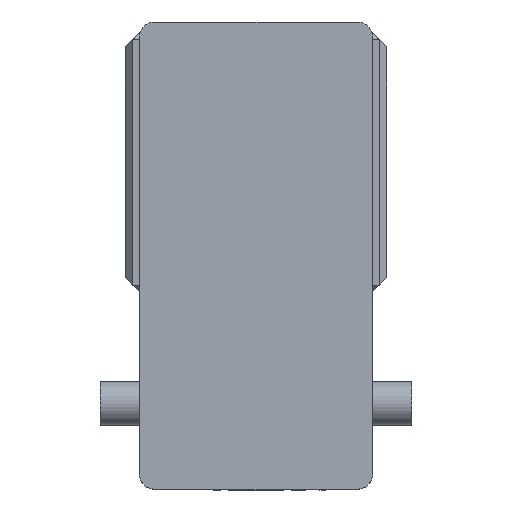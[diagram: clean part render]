
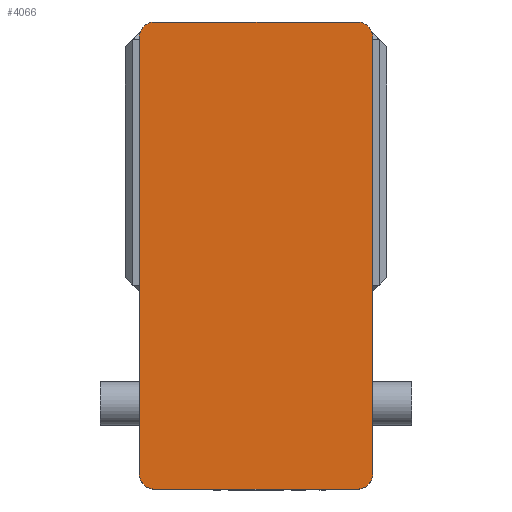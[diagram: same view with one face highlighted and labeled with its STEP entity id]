
A CAD part, left-side view. The second image highlights one B-rep face of the part: STEP entity #4066.
In plain terms, the highlighted planar face has unit normal (-1, 0, 0) as drawn and (0, 0, 1) by its records, which use the part's own axes.
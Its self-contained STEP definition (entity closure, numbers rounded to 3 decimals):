
#180 = DIRECTION ( 'NONE',  ( 1., 0., 0. ) ) ;
#249 = CARTESIAN_POINT ( 'NONE',  ( -75., -150., 105. ) ) ;
#1401 = DIRECTION ( 'NONE',  ( 0., -1., 0. ) ) ;
#1409 = CARTESIAN_POINT ( 'NONE',  ( -75., 140., 105. ) ) ;
#1428 = CARTESIAN_POINT ( 'NONE',  ( -75., 150., 105. ) ) ;
#1633 = VERTEX_POINT ( 'NONE', #13821 ) ;
#3212 = CARTESIAN_POINT ( 'NONE',  ( 75., 140., 105. ) ) ;
#4066 = ADVANCED_FACE ( 'NONE', ( #16025 ), #6736, .T. ) ;
#4200 = CARTESIAN_POINT ( 'NONE',  ( -75., 150., 105. ) ) ;
#4362 = DIRECTION ( 'NONE',  ( -1., 0., 0. ) ) ;
#5055 = AXIS2_PLACEMENT_3D ( 'NONE', #6712, #6690, #6684 ) ;
#5760 = DIRECTION ( 'NONE',  ( 0., 1., 0. ) ) ;
#5806 = CARTESIAN_POINT ( 'NONE',  ( 75., 150., 105. ) ) ;
#6684 = DIRECTION ( 'NONE',  ( 1., 0., 0. ) ) ;
#6690 = DIRECTION ( 'NONE',  ( 0., 0., 1. ) ) ;
#6712 = CARTESIAN_POINT ( 'NONE',  ( 0., 0., 105. ) ) ;
#6736 = PLANE ( 'NONE',  #5055 ) ;
#6793 = VERTEX_POINT ( 'NONE', #19548 ) ;
#7360 = VERTEX_POINT ( 'NONE', #15580 ) ;
#8289 = CIRCLE ( 'NONE', #16159, 10. ) ;
#8443 = CIRCLE ( 'NONE', #16566, 10. ) ;
#8538 = CIRCLE ( 'NONE', #17009, 10. ) ;
#8602 = CIRCLE ( 'NONE', #17608, 10. ) ;
#8690 = VECTOR ( 'NONE', #180, 1000. ) ;
#8702 = LINE ( 'NONE', #249, #8690 ) ;
#9203 = LINE ( 'NONE', #1428, #9395 ) ;
#9395 = VECTOR ( 'NONE', #1401, 1000. ) ;
#10035 = LINE ( 'NONE', #4200, #10074 ) ;
#10074 = VECTOR ( 'NONE', #4362, 1000. ) ;
#10358 = VECTOR ( 'NONE', #5760, 1000. ) ;
#10387 = LINE ( 'NONE', #5806, #10358 ) ;
#10490 = VERTEX_POINT ( 'NONE', #18599 ) ;
#10706 = VERTEX_POINT ( 'NONE', #3212 ) ;
#11428 = ORIENTED_EDGE ( 'NONE', *, *, #16787, .T. ) ;
#12501 = EDGE_LOOP ( 'NONE', ( #16957, #13127, #11428, #18270, #15216, #17482, #17736, #17947 ) ) ;
#12561 = VERTEX_POINT ( 'NONE', #1409 ) ;
#12700 = VERTEX_POINT ( 'NONE', #18946 ) ;
#13127 = ORIENTED_EDGE ( 'NONE', *, *, #17293, .T. ) ;
#13821 = CARTESIAN_POINT ( 'NONE',  ( 75., -140., 105. ) ) ;
#15216 = ORIENTED_EDGE ( 'NONE', *, *, #16906, .T. ) ;
#15580 = CARTESIAN_POINT ( 'NONE',  ( -75., -140., 105. ) ) ;
#16025 = FACE_OUTER_BOUND ( 'NONE', #12501, .T. ) ;
#16159 = AXIS2_PLACEMENT_3D ( 'NONE', #16442, #16418, #16367 ) ;
#16367 = DIRECTION ( 'NONE',  ( 1., 0., 0. ) ) ;
#16418 = DIRECTION ( 'NONE',  ( 0., 0., 1. ) ) ;
#16442 = CARTESIAN_POINT ( 'NONE',  ( -65., -140., 105. ) ) ;
#16566 = AXIS2_PLACEMENT_3D ( 'NONE', #18040, #18018, #17977 ) ;
#16787 = EDGE_CURVE ( 'NONE', #1633, #10706, #10387, .T. ) ;
#16906 = EDGE_CURVE ( 'NONE', #6793, #12700, #10035, .T. ) ;
#16957 = ORIENTED_EDGE ( 'NONE', *, *, #17240, .T. ) ;
#17009 = AXIS2_PLACEMENT_3D ( 'NONE', #18635, #18578, #18520 ) ;
#17110 = EDGE_CURVE ( 'NONE', #12561, #7360, #9203, .T. ) ;
#17240 = EDGE_CURVE ( 'NONE', #17335, #10490, #8702, .T. ) ;
#17293 = EDGE_CURVE ( 'NONE', #10490, #1633, #8602, .T. ) ;
#17323 = EDGE_CURVE ( 'NONE', #10706, #6793, #8538, .T. ) ;
#17326 = EDGE_CURVE ( 'NONE', #12700, #12561, #8443, .T. ) ;
#17335 = VERTEX_POINT ( 'NONE', #18762 ) ;
#17383 = EDGE_CURVE ( 'NONE', #7360, #17335, #8289, .T. ) ;
#17482 = ORIENTED_EDGE ( 'NONE', *, *, #17326, .T. ) ;
#17608 = AXIS2_PLACEMENT_3D ( 'NONE', #19481, #19443, #19427 ) ;
#17736 = ORIENTED_EDGE ( 'NONE', *, *, #17110, .T. ) ;
#17947 = ORIENTED_EDGE ( 'NONE', *, *, #17383, .T. ) ;
#17977 = DIRECTION ( 'NONE',  ( 1., 0., 0. ) ) ;
#18018 = DIRECTION ( 'NONE',  ( 0., 0., 1. ) ) ;
#18040 = CARTESIAN_POINT ( 'NONE',  ( -65., 140., 105. ) ) ;
#18270 = ORIENTED_EDGE ( 'NONE', *, *, #17323, .T. ) ;
#18520 = DIRECTION ( 'NONE',  ( 1., 0., 0. ) ) ;
#18578 = DIRECTION ( 'NONE',  ( 0., 0., 1. ) ) ;
#18599 = CARTESIAN_POINT ( 'NONE',  ( 65., -150., 105. ) ) ;
#18635 = CARTESIAN_POINT ( 'NONE',  ( 65., 140., 105. ) ) ;
#18762 = CARTESIAN_POINT ( 'NONE',  ( -65., -150., 105. ) ) ;
#18946 = CARTESIAN_POINT ( 'NONE',  ( -65., 150., 105. ) ) ;
#19427 = DIRECTION ( 'NONE',  ( 1., 0., 0. ) ) ;
#19443 = DIRECTION ( 'NONE',  ( 0., 0., 1. ) ) ;
#19481 = CARTESIAN_POINT ( 'NONE',  ( 65., -140., 105. ) ) ;
#19548 = CARTESIAN_POINT ( 'NONE',  ( 65., 150., 105. ) ) ;
